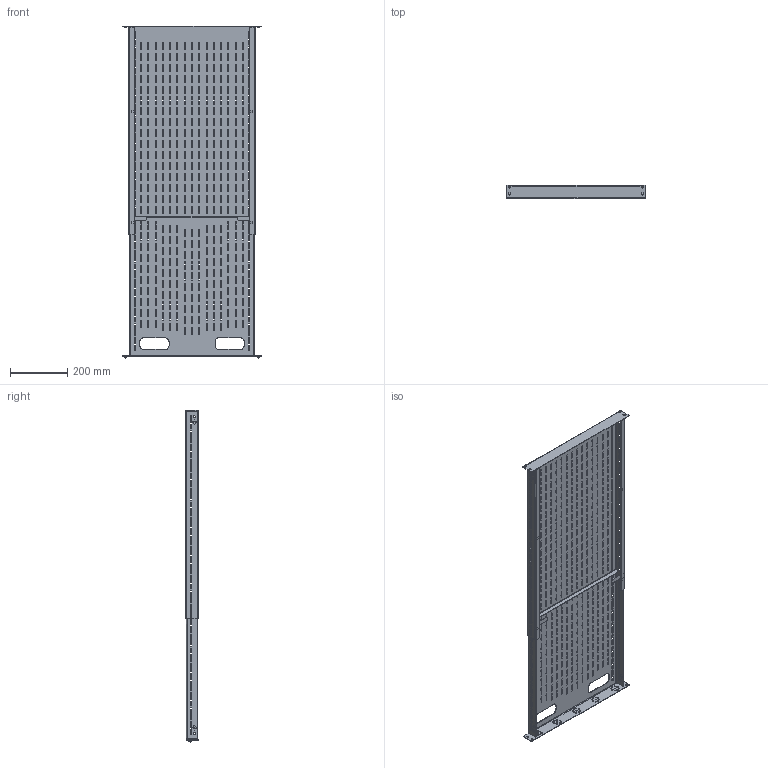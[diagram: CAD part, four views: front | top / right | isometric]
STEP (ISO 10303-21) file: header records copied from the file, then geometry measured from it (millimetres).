
FILE_DESCRIPTION((''),'2;1');
FILE_NAME('D:\scratch\ideas\sa_shelf_vent_19ra_tooless.stp', '2007-04-10T08:38:27',('User'),('SDRC'),'I-DEAS Master Series 9','UNIX', 'Yes');
FILE_SCHEMA(('AUTOMOTIVE_DESIGN { 1 0 10303 214 0 1 1 1 }'));
Length unit declared in the file: inch
Products named in the file (3): 87922991; 87925173; 87925177
Assembly tree (2 placements, depth 2):
  87922991
    87925173
    87925177
Bounding box: 482.61 x 44.75 x 1159.3 mm (x, y, z)
Volume: 446594.8 mm3; surface area: 1336028.6 mm2
Topology: 1 solids, 4 shells, 2371 faces, 7029 edges, 4666 vertices
Faces by surface type: bspline 2371
Entity records: 76221 total; most frequent: CARTESIAN_POINT 32179, ORIENTED_EDGE 14002, EDGE_CURVE 7025, QUASI_UNIFORM_CURVE 6096, VERTEX_POINT 4664, EDGE_LOOP 3505, FACE_OUTER_BOUND 2369, ADVANCED_FACE 2369
